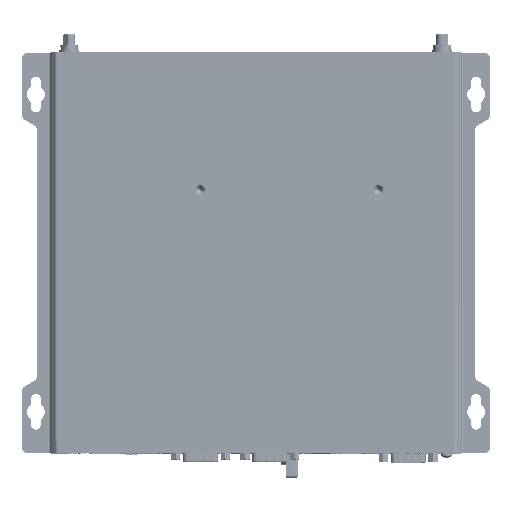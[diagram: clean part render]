
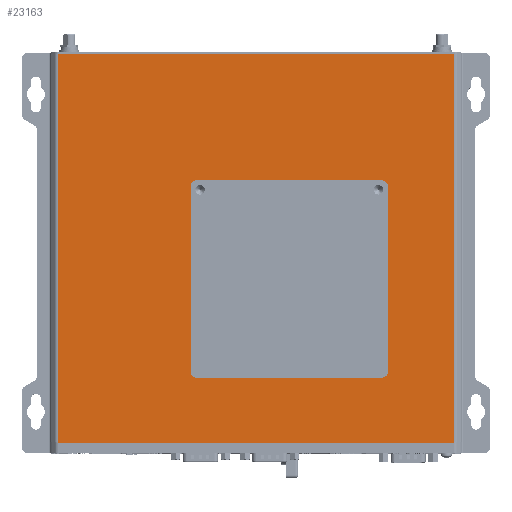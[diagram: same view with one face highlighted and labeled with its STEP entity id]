
A CAD part, top view. The second image highlights one B-rep face of the part: STEP entity #23163.
In plain terms, the highlighted planar face has unit normal (0, 0, 1).
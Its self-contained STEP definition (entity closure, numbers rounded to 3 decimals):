
#23163=ADVANCED_FACE('',(#45232,#45233),#29505,.T.);
#29505=PLANE('',#206723);
#33609=CIRCLE('',#205035,3.);
#33610=CIRCLE('',#205037,3.);
#33611=CIRCLE('',#205039,3.);
#33612=CIRCLE('',#205041,3.);
#45232=FACE_BOUND('',#54244,.T.);
#45233=FACE_BOUND('',#54245,.T.);
#54244=EDGE_LOOP('',(#101477,#101478,#101479,#101480,#101481,#101482,#101483,
#101484));
#54245=EDGE_LOOP('',(#101485,#101486,#101487,#101488,#101489,#101490,#101491,
#101492));
#101477=ORIENTED_EDGE('',*,*,#155043,.T.);
#101478=ORIENTED_EDGE('',*,*,#151775,.T.);
#101479=ORIENTED_EDGE('',*,*,#152805,.F.);
#101480=ORIENTED_EDGE('',*,*,#151295,.T.);
#101481=ORIENTED_EDGE('',*,*,#133365,.F.);
#101482=ORIENTED_EDGE('',*,*,#133379,.T.);
#101483=ORIENTED_EDGE('',*,*,#152884,.F.);
#101484=ORIENTED_EDGE('',*,*,#155038,.F.);
#101485=ORIENTED_EDGE('',*,*,#151210,.F.);
#101486=ORIENTED_EDGE('',*,*,#151070,.T.);
#101487=ORIENTED_EDGE('',*,*,#151219,.F.);
#101488=ORIENTED_EDGE('',*,*,#151073,.T.);
#101489=ORIENTED_EDGE('',*,*,#151212,.F.);
#101490=ORIENTED_EDGE('',*,*,#151064,.T.);
#101491=ORIENTED_EDGE('',*,*,#151211,.F.);
#101492=ORIENTED_EDGE('',*,*,#151067,.T.);
#114538=VERTEX_POINT('',#254906);
#114556=VERTEX_POINT('',#254947);
#114561=VERTEX_POINT('',#254976);
#126182=VERTEX_POINT('',#344250);
#126183=VERTEX_POINT('',#344251);
#126184=VERTEX_POINT('',#344256);
#126185=VERTEX_POINT('',#344257);
#126186=VERTEX_POINT('',#344262);
#126187=VERTEX_POINT('',#344263);
#126188=VERTEX_POINT('',#344268);
#126189=VERTEX_POINT('',#344269);
#126256=VERTEX_POINT('',#344718);
#126568=VERTEX_POINT('',#345683);
#126569=VERTEX_POINT('',#345684);
#127274=VERTEX_POINT('',#355860);
#128557=VERTEX_POINT('',#384167);
#133365=EDGE_CURVE('',#114556,#114538,#161447,.T.);
#133379=EDGE_CURVE('',#114556,#114561,#161460,.T.);
#151064=EDGE_CURVE('',#126182,#126183,#33609,.T.);
#151067=EDGE_CURVE('',#126184,#126185,#33610,.T.);
#151070=EDGE_CURVE('',#126186,#126187,#33611,.T.);
#151073=EDGE_CURVE('',#126188,#126189,#33612,.T.);
#151210=EDGE_CURVE('',#126186,#126185,#171859,.T.);
#151211=EDGE_CURVE('',#126184,#126183,#171860,.T.);
#151212=EDGE_CURVE('',#126182,#126189,#171861,.T.);
#151219=EDGE_CURVE('',#126188,#126187,#171868,.T.);
#151295=EDGE_CURVE('',#126256,#114538,#171935,.T.);
#151775=EDGE_CURVE('',#126568,#126569,#172255,.T.);
#152805=EDGE_CURVE('',#126256,#126569,#172812,.T.);
#152884=EDGE_CURVE('',#127274,#114561,#172862,.T.);
#155038=EDGE_CURVE('',#128557,#127274,#173785,.T.);
#155043=EDGE_CURVE('',#128557,#126568,#173788,.T.);
#161447=LINE('',#254948,#178810);
#161460=LINE('',#254977,#178823);
#171859=LINE('',#344477,#190709);
#171860=LINE('',#344479,#190710);
#171861=LINE('',#344481,#190711);
#171868=LINE('',#344537,#190718);
#171935=LINE('',#344717,#190785);
#172255=LINE('',#345682,#191105);
#172812=LINE('',#354210,#191662);
#172862=LINE('',#355861,#191712);
#173785=LINE('',#384168,#193127);
#173788=LINE('',#384177,#193130);
#178810=VECTOR('',#209895,1.);
#178823=VECTOR('',#209930,1.);
#190709=VECTOR('',#236310,1.);
#190710=VECTOR('',#236313,1.);
#190711=VECTOR('',#236316,1.);
#190718=VECTOR('',#236421,1.);
#190785=VECTOR('',#236582,1.);
#191105=VECTOR('',#237540,1.);
#191662=VECTOR('',#239533,1.);
#191712=VECTOR('',#239721,1.);
#193127=VECTOR('',#241938,1.);
#193130=VECTOR('',#241951,1.);
#205035=AXIS2_PLACEMENT_3D('',#344249,#236012,#236013);
#205037=AXIS2_PLACEMENT_3D('',#344255,#236018,#236019);
#205039=AXIS2_PLACEMENT_3D('',#344261,#236024,#236025);
#205041=AXIS2_PLACEMENT_3D('',#344267,#236030,#236031);
#206723=AXIS2_PLACEMENT_3D('',#384178,#241952,#241953);
#209895=DIRECTION('',(-1.,0.,0.));
#209930=DIRECTION('',(0.,1.,0.));
#236012=DIRECTION('',(0.,0.,-1.));
#236013=DIRECTION('',(-1.,0.,0.));
#236018=DIRECTION('',(0.,0.,-1.));
#236019=DIRECTION('',(-1.,0.,0.));
#236024=DIRECTION('',(0.,0.,-1.));
#236025=DIRECTION('',(-1.,0.,0.));
#236030=DIRECTION('',(0.,0.,-1.));
#236031=DIRECTION('',(-1.,0.,0.));
#236310=DIRECTION('',(0.,-1.,0.));
#236313=DIRECTION('',(1.,0.,0.));
#236316=DIRECTION('',(0.,1.,0.));
#236421=DIRECTION('',(-1.,0.,0.));
#236582=DIRECTION('',(0.,1.,0.));
#237540=DIRECTION('',(0.,-1.,0.));
#239533=DIRECTION('',(-1.,0.,0.));
#239721=DIRECTION('',(1.,0.,0.));
#241938=DIRECTION('',(0.,1.,0.));
#241951=DIRECTION('',(1.,0.,0.));
#241952=DIRECTION('',(0.,0.,1.));
#241953=DIRECTION('',(1.,0.,0.));
#254906=CARTESIAN_POINT('',(96.172,3.,57.5));
#254947=CARTESIAN_POINT('',(96.472,3.,57.5));
#254948=CARTESIAN_POINT('',(100.3,3.,57.5));
#254976=CARTESIAN_POINT('',(96.472,198.5,57.5));
#254977=CARTESIAN_POINT('',(96.472,169.,57.5));
#344249=CARTESIAN_POINT('',(59.9,38.412,57.5));
#344250=CARTESIAN_POINT('',(62.9,38.412,57.5));
#344251=CARTESIAN_POINT('',(59.9,35.412,57.5));
#344255=CARTESIAN_POINT('',(-33.6,38.412,57.5));
#344256=CARTESIAN_POINT('',(-33.6,35.412,57.5));
#344257=CARTESIAN_POINT('',(-36.6,38.412,57.5));
#344261=CARTESIAN_POINT('',(-33.6,131.912,57.5));
#344262=CARTESIAN_POINT('',(-36.6,131.912,57.5));
#344263=CARTESIAN_POINT('',(-33.6,134.912,57.5));
#344267=CARTESIAN_POINT('',(59.9,131.912,57.5));
#344268=CARTESIAN_POINT('',(59.9,134.912,57.5));
#344269=CARTESIAN_POINT('',(62.9,131.912,57.5));
#344477=CARTESIAN_POINT('',(-36.6,86.5,57.5));
#344479=CARTESIAN_POINT('',(-0.8,35.412,57.5));
#344481=CARTESIAN_POINT('',(62.9,86.5,57.5));
#344537=CARTESIAN_POINT('',(-0.8,134.912,57.5));
#344717=CARTESIAN_POINT('',(96.172,168.5,57.5));
#344718=CARTESIAN_POINT('',(96.172,2.5,57.5));
#345682=CARTESIAN_POINT('',(-103.572,198.5,57.5));
#345683=CARTESIAN_POINT('',(-103.572,3.,57.5));
#345684=CARTESIAN_POINT('',(-103.572,2.5,57.5));
#354210=CARTESIAN_POINT('',(-107.2,2.5,57.5));
#355860=CARTESIAN_POINT('',(-103.672,198.5,57.5));
#355861=CARTESIAN_POINT('',(-107.5,198.5,57.5));
#384167=CARTESIAN_POINT('',(-103.672,3.,57.5));
#384168=CARTESIAN_POINT('',(-103.672,-744.6,57.5));
#384177=CARTESIAN_POINT('',(-107.5,3.,57.5));
#384178=CARTESIAN_POINT('',(-107.5,-744.6,57.5));
